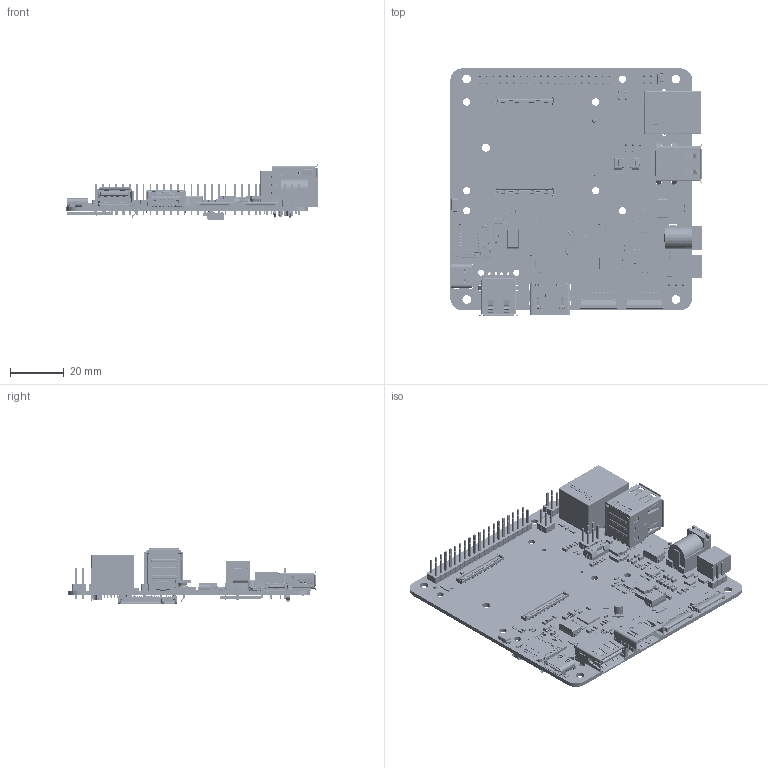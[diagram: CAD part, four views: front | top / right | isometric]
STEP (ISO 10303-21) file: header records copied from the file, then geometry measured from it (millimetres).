
FILE_DESCRIPTION(('KiCad electronic assembly'),'2;1');
FILE_NAME('TOFUv1.4.step','2021-03-17T17:54:19',('Pcbnew'),('Kicad'), 'Open CASCADE STEP processor 6.9','KiCad to STEP converter','Unknown' );
FILE_SCHEMA(('AUTOMOTIVE_DESIGN { 1 0 10303 214 1 1 1 1 }'));
Length unit declared in the file: millimetre
Products named in the file (80): Open CASCADE STEP translator 6.9 1; C_0603_1608Metric; SOLID; C_0805_2012Metric; FH12-22S-0.5SHa; PinHeader_1x03_P2.54mm_Vertical; R_0603_1608Metric; USON-10_2.5x1.0mm_P0.5mm; SOT-23; PinHeader_2x20_P2.54mm_Vertical; LED_0603_1608Metric; Crystal_SMD_HC49-SD; QFN-36-1EP_6x6mm_P0.5mm_EP3.7x3.7mm; PinHeader_2x02_P2.54mm_Vertical; SOT-353_SC-70-5; SOT-23-5; CUI_DEVICES_PJ-102AH; TRJG0926HENL; 471511051; COMPOUND; SOT-23-6; MSOP-10_3x3mm_P0.5mm; 690A104-123-020_-_EDAC_USB_Connector; D_SOT-23; L_Bourns_SRN6045TA; HSOP-8-1EP_3.9x4.9mm_P1.27mm_EP2.41x3.1mm; 5033981892; DMP3018SFVQ-13; CP_EIA-7343-31_Kemet-D; 690N208-124-020_-_EDAC_USB_Connector; 1788505; User_Library-0ZCG-0_90mm; MBRA160T3G; PTS820J20KSMTRLFS; DF40C-100DS; SODFL1608X70N; RB050LAM-60TFTR; 015403.5DRTL; 105450-0101; 5039600695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
Assembly tree (183 placements, depth 3):
  Open CASCADE STEP translator 6.9 1
    C_0603_1608Metric  x30
      SOLID
    C_0805_2012Metric  x25
      SOLID
    FH12-22S-0.5SHa  x2
      SOLID
    PinHeader_1x03_P2.54mm_Vertical  x3
      SOLID
    R_0603_1608Metric  x38
      SOLID
    USON-10_2.5x1.0mm_P0.5mm  x3
      SOLID
    SOT-23
      SOLID
    PinHeader_2x20_P2.54mm_Vertical
      SOLID
    LED_0603_1608Metric  x2
      SOLID
    Crystal_SMD_HC49-SD
      SOLID
    QFN-36-1EP_6x6mm_P0.5mm_EP3.7x3.7mm
      SOLID
    PinHeader_2x02_P2.54mm_Vertical  x2
      SOLID
    SOT-353_SC-70-5
      SOLID
    SOT-23-5
      SOLID
    CUI_DEVICES_PJ-102AH
      SOLID
    TRJG0926HENL
      SOLID
    471511051
      COMPOUND
    SOT-23-6
      SOLID
    MSOP-10_3x3mm_P0.5mm
      SOLID
    690A104-123-020_-_EDAC_USB_Connector
      COMPOUND
    D_SOT-23
      SOLID
    L_Bourns_SRN6045TA  x2
      SOLID
    HSOP-8-1EP_3.9x4.9mm_P1.27mm_EP2.41x3.1mm
      SOLID
    5033981892
      COMPOUND
    DMP3018SFVQ-13
      COMPOUND
    CP_EIA-7343-31_Kemet-D  x3
      SOLID
    690N208-124-020_-_EDAC_USB_Connector
      COMPOUND
    HSOP-8-1EP_3.9x4.9mm_P1.27mm_EP2.41x3.1mm
      SOLID
    1788505
      COMPOUND
    User_Library-0ZCG-0_90mm  x2
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Bounding box: 93.5 x 91.99 x 20.84 mm (x, y, z)
Volume: 23399.3 mm3; surface area: 40588 mm2
Topology: 258 solids, 259 shells, 22915 faces, 63015 edges, 41487 vertices
Faces by surface type: bspline 22726, cylinder 161, plane 28
Full cylindrical faces by diameter (mm): 0.2 x8, 0.25 x8, 0.9 x14, 1 x73, 1.02 x4, 1.15 x1, 1.35 x2, 1.65 x1, 1.7 x2, 2.3 x8, 2.7 x7, 3 x1, 3.2 x6
Entity records: 1051936 total; most frequent: CARTESIAN_POINT 427571, B_SPLINE_CURVE_WITH_KNOTS 122013, ORIENTED_EDGE 90604, PCURVE 90604, DEFINITIONAL_REPRESENTATION 90604, EDGE_CURVE 45302, SURFACE_CURVE 45159, VERTEX_POINT 29511
